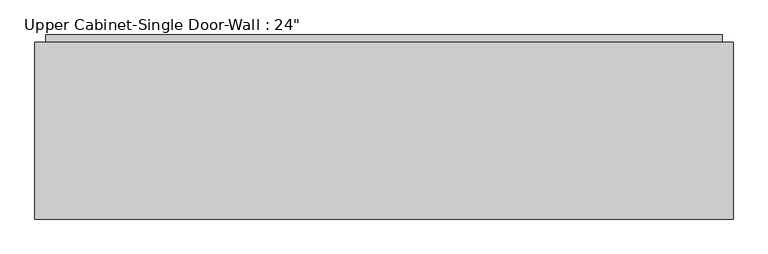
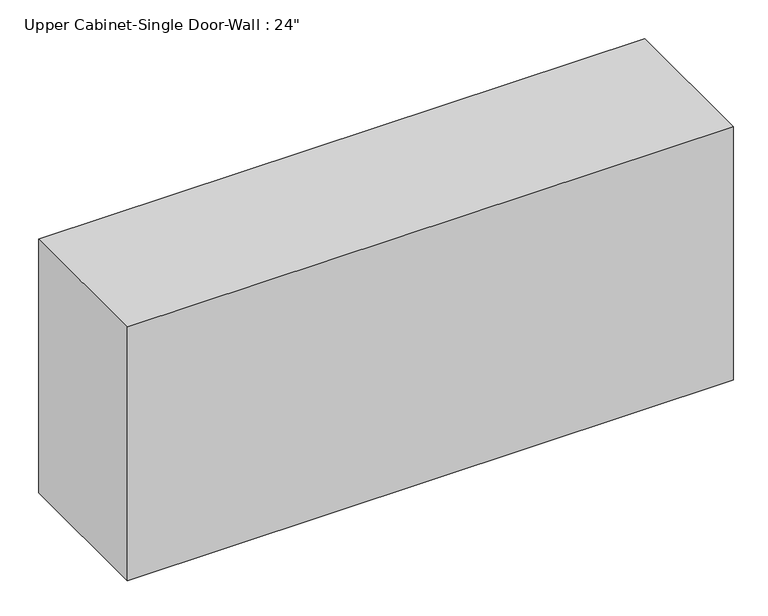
"""IFC4 building model written with IfcOpenShell, lengths in millimetres: furniture geometry."""

from ifc_helpers import new_model, si_unit, frame, origin, place, context, project, spatial, polyline, outline, extrude, faceted_brep, source, transform, mapped, element, save


def furniture_55d4882b(model_context):
    return source(origin(), model_context, "Body", "SolidModel", [
        faceted_brep([(-945.7527608, 76.2, 2133.6), (-945.7527608, 76.2, 1600.2), (258.3711628, 76.2, 1600.2), (258.3711628, 76.2, 2133.6), (-945.7527608, 381.0, 2133.6), (258.3711628, 381.0, 2133.6), (258.3711628, 381.0, 1600.2), (-945.7527608, 381.0, 1600.2), (-926.7027608, 381.0, 2114.55), (-926.7027608, 381.0, 1619.25), (239.3211628, 381.0, 1619.25), (239.3211628, 381.0, 2114.55), (239.3211628, 95.25, 2114.55), (-926.7027608, 95.25, 2114.55), (239.3211628, 95.25, 1619.25), (-926.7027608, 95.25, 1619.25)], [[[0, 1, 2, 3]], [[4, 5, 6, 7], [8, 9, 10, 11]], [[1, 0, 4, 7]], [[2, 1, 7, 6]], [[3, 2, 6, 5]], [[0, 3, 5, 4]], [[8, 11, 12, 13]], [[11, 10, 14, 12]], [[10, 9, 15, 14]], [[9, 8, 13, 15]], [[13, 12, 14, 15]]]),
        extrude(outline(polyline([(-926.7027608, 393.7), (239.3211628, 393.7), (239.3211628, 361.95), (-926.7027608, 361.95), (-926.7027608, 393.7)])), frame((0.0, 0.0, 1619.25), z_axis=(0.0, 0.0, 1.0), x_axis=(1.0, 0.0, 0.0)), (0.0, 0.0, 1.0), 495.3),
    ])


if __name__ == "__main__":
    model = new_model("IFC4")
    model_context = context("Model", 3, world=origin())
    ifc_project = project(units=[si_unit("LENGTHUNIT", "METRE", prefix="MILLI")], contexts=[model_context])
    site = spatial("IfcSite", under=ifc_project)
    building = spatial("IfcBuilding", under=site)
    placement = place(None, origin())
    furniture_shape = furniture_55d4882b(model_context)
    element("IfcFurniture", 1, ObjectType="Upper Cabinet-Single Door-Wall : 24\"", at=placement, inside=building, context=model_context, shape_type="MappedRepresentation", body=[
        mapped(furniture_shape, transform((0.0, 0.0, 0.0), x_axis=(1.0, 0.0, 0.0), y_axis=(0.0, 1.0, 0.0), z_axis=(0.0, 0.0, 1.0))),
    ])
    save(model, "model.ifc")
